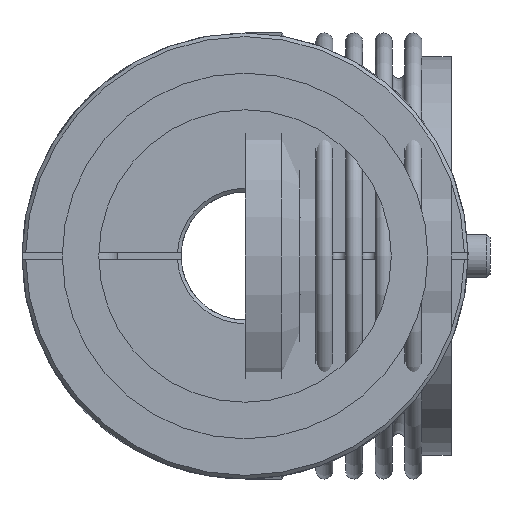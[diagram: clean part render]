
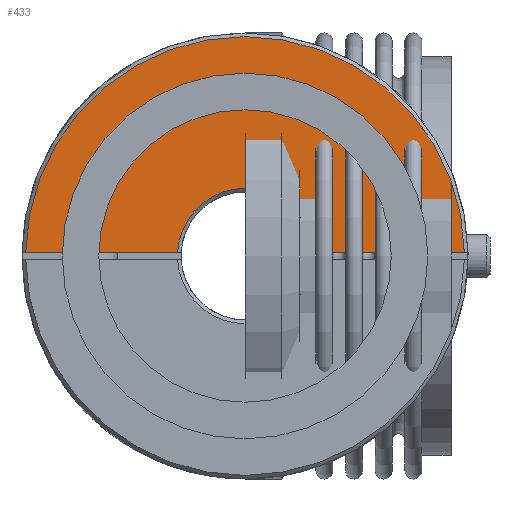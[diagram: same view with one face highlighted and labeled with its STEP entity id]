
A CAD part, front view. The second image highlights one B-rep face of the part: STEP entity #433.
In plain terms, the highlighted planar face has unit normal (0, -1, 0).
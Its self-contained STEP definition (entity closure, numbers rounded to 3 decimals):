
#433 = ADVANCED_FACE( '', ( #698 ), #699, .F. );
#698 = FACE_OUTER_BOUND( '', #979, .T. );
#699 = PLANE( '', #980 );
#979 = EDGE_LOOP( '', ( #1339, #1340, #1341, #1342 ) );
#980 = AXIS2_PLACEMENT_3D( '', #1343, #1344, #1345 );
#1339 = ORIENTED_EDGE( '', *, *, #1784, .T. );
#1340 = ORIENTED_EDGE( '', *, *, #1790, .T. );
#1341 = ORIENTED_EDGE( '', *, *, #1804, .T. );
#1342 = ORIENTED_EDGE( '', *, *, #1800, .T. );
#1343 = CARTESIAN_POINT( '', ( 0., -52., 0. ) );
#1344 = DIRECTION( '', ( 0., 1., 0. ) );
#1345 = DIRECTION( '', ( 0., 0., 1. ) );
#1784 = EDGE_CURVE( '', #1956, #1954, #1957, .T. );
#1790 = EDGE_CURVE( '', #1954, #1965, #1967, .T. );
#1800 = EDGE_CURVE( '', #1985, #1956, #1986, .F. );
#1804 = EDGE_CURVE( '', #1965, #1985, #1991, .T. );
#1954 = VERTEX_POINT( '', #2240 );
#1956 = VERTEX_POINT( '', #2245 );
#1957 = LINE( '', #2246, #2247 );
#1965 = VERTEX_POINT( '', #2260 );
#1967 = CIRCLE( '', #2265, 18.5 );
#1985 = VERTEX_POINT( '', #2379 );
#1986 = CIRCLE( '', #2380, 60. );
#1991 = LINE( '', #2389, #2390 );
#2240 = CARTESIAN_POINT( '', ( -18.473, -52., 1. ) );
#2245 = CARTESIAN_POINT( '', ( -59.992, -52., 1. ) );
#2246 = CARTESIAN_POINT( '', ( 0., -52., 1. ) );
#2247 = VECTOR( '', #2718, 1000. );
#2260 = CARTESIAN_POINT( '', ( 18.473, -52., 1. ) );
#2265 = AXIS2_PLACEMENT_3D( '', #2724, #2725, #2726 );
#2379 = CARTESIAN_POINT( '', ( 59.992, -52., 1. ) );
#2380 = AXIS2_PLACEMENT_3D( '', #2749, #2750, #2751 );
#2389 = CARTESIAN_POINT( '', ( 0., -52., 1. ) );
#2390 = VECTOR( '', #2756, 1000. );
#2718 = DIRECTION( '', ( 1., 0., 0. ) );
#2724 = CARTESIAN_POINT( '', ( 0., -52., 0. ) );
#2725 = DIRECTION( '', ( 0., 1., 0. ) );
#2726 = DIRECTION( '', ( 0., 0., 1. ) );
#2749 = CARTESIAN_POINT( '', ( 0., -52., 0. ) );
#2750 = DIRECTION( '', ( 0., 1., 0. ) );
#2751 = DIRECTION( '', ( 0., 0., 1. ) );
#2756 = DIRECTION( '', ( 1., 0., 0. ) );
